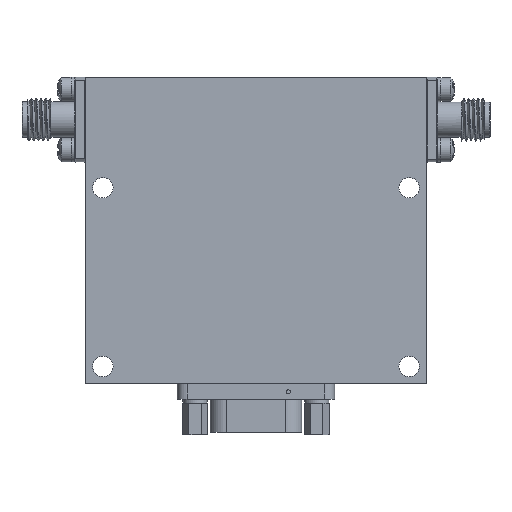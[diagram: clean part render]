
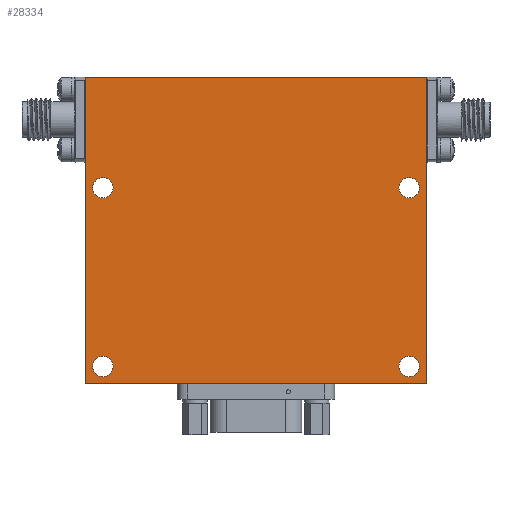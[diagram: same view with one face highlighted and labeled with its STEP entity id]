
A CAD part, front view. The second image highlights one B-rep face of the part: STEP entity #28334.
In plain terms, the highlighted planar face has unit normal (0, -1, 0).
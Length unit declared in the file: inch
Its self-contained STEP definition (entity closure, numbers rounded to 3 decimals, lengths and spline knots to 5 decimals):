
#138 = FACE_OUTER_BOUND ( 'NONE', #28775, .T. ) ;
#180 = EDGE_CURVE ( 'NONE', #34060, #46349, #38858, .T. ) ;
#739 = CARTESIAN_POINT ( 'NONE',  ( 0.9, -0.25, -0.74 ) ) ;
#1085 = CARTESIAN_POINT ( 'NONE',  ( -1., -0.25, -0.9 ) ) ;
#1667 = AXIS2_PLACEMENT_3D ( 'NONE', #19901, #34242, #15609 ) ;
#1695 = ORIENTED_EDGE ( 'NONE', *, *, #31175, .T. ) ;
#1808 = VERTEX_POINT ( 'NONE', #37314 ) ;
#2071 = ORIENTED_EDGE ( 'NONE', *, *, #29122, .T. ) ;
#2370 = DIRECTION ( 'NONE',  ( 0., 1., 0. ) ) ;
#3144 = CARTESIAN_POINT ( 'NONE',  ( -0.9, -0.25, -0.74 ) ) ;
#3339 = CARTESIAN_POINT ( 'NONE',  ( 1., -0.25, -0.9 ) ) ;
#6464 = VECTOR ( 'NONE', #39361, 39.37008 ) ;
#6966 = CARTESIAN_POINT ( 'NONE',  ( -1., -0.25, -0.9 ) ) ;
#7383 = VECTOR ( 'NONE', #21295, 39.37008 ) ;
#9690 = DIRECTION ( 'NONE',  ( 0., 0., 1. ) ) ;
#11710 = DIRECTION ( 'NONE',  ( 0., 0., 1. ) ) ;
#12690 = ORIENTED_EDGE ( 'NONE', *, *, #20459, .F. ) ;
#13573 = AXIS2_PLACEMENT_3D ( 'NONE', #23295, #37619, #30580 ) ;
#13852 = FACE_BOUND ( 'NONE', #21065, .T. ) ;
#15554 = ORIENTED_EDGE ( 'NONE', *, *, #43399, .T. ) ;
#15609 = DIRECTION ( 'NONE',  ( 0., 0., 1. ) ) ;
#15897 = CARTESIAN_POINT ( 'NONE',  ( -1., -0.25, 0.9 ) ) ;
#16542 = CARTESIAN_POINT ( 'NONE',  ( -0.9, -0.25, -0.8 ) ) ;
#16843 = EDGE_LOOP ( 'NONE', ( #35082 ) ) ;
#17003 = EDGE_LOOP ( 'NONE', ( #2071 ) ) ;
#17721 = DIRECTION ( 'NONE',  ( 0., 0., 1. ) ) ;
#17860 = ORIENTED_EDGE ( 'NONE', *, *, #180, .F. ) ;
#19213 = VERTEX_POINT ( 'NONE', #43858 ) ;
#19478 = LINE ( 'NONE', #15897, #38487 ) ;
#19901 = CARTESIAN_POINT ( 'NONE',  ( -0.9, -0.25, 0.25 ) ) ;
#20302 = AXIS2_PLACEMENT_3D ( 'NONE', #33173, #25421, #11710 ) ;
#20459 = EDGE_CURVE ( 'NONE', #46349, #21962, #19478, .T. ) ;
#21065 = EDGE_LOOP ( 'NONE', ( #1695 ) ) ;
#21295 = DIRECTION ( 'NONE',  ( -1., 0., 0. ) ) ;
#21310 = LINE ( 'NONE', #3339, #6464 ) ;
#21962 = VERTEX_POINT ( 'NONE', #40621 ) ;
#23295 = CARTESIAN_POINT ( 'NONE',  ( 0.9, -0.25, -0.8 ) ) ;
#23731 = EDGE_CURVE ( 'NONE', #25336, #25336, #35302, .T. ) ;
#24495 = PLANE ( 'NONE',  #20302 ) ;
#24776 = CARTESIAN_POINT ( 'NONE',  ( -1., -0.25, -0.9 ) ) ;
#25053 = EDGE_CURVE ( 'NONE', #1808, #34060, #33434, .T. ) ;
#25056 = CIRCLE ( 'NONE', #1667, 0.06 ) ;
#25191 = FACE_BOUND ( 'NONE', #34818, .T. ) ;
#25336 = VERTEX_POINT ( 'NONE', #3144 ) ;
#25421 = DIRECTION ( 'NONE',  ( 0., 1., 0. ) ) ;
#25702 = ORIENTED_EDGE ( 'NONE', *, *, #25053, .F. ) ;
#26302 = AXIS2_PLACEMENT_3D ( 'NONE', #16542, #2370, #9690 ) ;
#27643 = VERTEX_POINT ( 'NONE', #34956 ) ;
#28026 = CIRCLE ( 'NONE', #36273, 0.06 ) ;
#28334 = ADVANCED_FACE ( 'NONE', ( #13852, #25191, #35981, #32475, #138 ), #24495, .F. ) ;
#28775 = EDGE_LOOP ( 'NONE', ( #17860, #25702, #38374, #12690 ) ) ;
#29122 = EDGE_CURVE ( 'NONE', #32839, #32839, #42123, .T. ) ;
#30287 = DIRECTION ( 'NONE',  ( 1., 0., 0. ) ) ;
#30580 = DIRECTION ( 'NONE',  ( 0., 0., 1. ) ) ;
#31070 = DIRECTION ( 'NONE',  ( 0., 1., 0. ) ) ;
#31175 = EDGE_CURVE ( 'NONE', #19213, #19213, #25056, .T. ) ;
#31512 = CARTESIAN_POINT ( 'NONE',  ( 0.9, -0.25, 0.25 ) ) ;
#32475 = FACE_BOUND ( 'NONE', #16843, .T. ) ;
#32839 = VERTEX_POINT ( 'NONE', #739 ) ;
#33173 = CARTESIAN_POINT ( 'NONE',  ( 0., -0.25, 0. ) ) ;
#33434 = LINE ( 'NONE', #1085, #7383 ) ;
#34060 = VERTEX_POINT ( 'NONE', #6966 ) ;
#34242 = DIRECTION ( 'NONE',  ( 0., 1., 0. ) ) ;
#34818 = EDGE_LOOP ( 'NONE', ( #15554 ) ) ;
#34956 = CARTESIAN_POINT ( 'NONE',  ( 0.9, -0.25, 0.31 ) ) ;
#35082 = ORIENTED_EDGE ( 'NONE', *, *, #23731, .T. ) ;
#35295 = EDGE_CURVE ( 'NONE', #21962, #1808, #21310, .T. ) ;
#35302 = CIRCLE ( 'NONE', #26302, 0.06 ) ;
#35981 = FACE_BOUND ( 'NONE', #17003, .T. ) ;
#36273 = AXIS2_PLACEMENT_3D ( 'NONE', #31512, #31070, #38780 ) ;
#37314 = CARTESIAN_POINT ( 'NONE',  ( 1., -0.25, -0.9 ) ) ;
#37619 = DIRECTION ( 'NONE',  ( 0., 1., 0. ) ) ;
#38374 = ORIENTED_EDGE ( 'NONE', *, *, #35295, .F. ) ;
#38487 = VECTOR ( 'NONE', #30287, 39.37008 ) ;
#38780 = DIRECTION ( 'NONE',  ( 0., 0., 1. ) ) ;
#38858 = LINE ( 'NONE', #24776, #44303 ) ;
#39361 = DIRECTION ( 'NONE',  ( 0., 0., -1. ) ) ;
#40621 = CARTESIAN_POINT ( 'NONE',  ( 1., -0.25, 0.9 ) ) ;
#42123 = CIRCLE ( 'NONE', #13573, 0.06 ) ;
#43399 = EDGE_CURVE ( 'NONE', #27643, #27643, #28026, .T. ) ;
#43858 = CARTESIAN_POINT ( 'NONE',  ( -0.9, -0.25, 0.31 ) ) ;
#44303 = VECTOR ( 'NONE', #17721, 39.37008 ) ;
#44963 = CARTESIAN_POINT ( 'NONE',  ( -1., -0.25, 0.9 ) ) ;
#46349 = VERTEX_POINT ( 'NONE', #44963 ) ;
